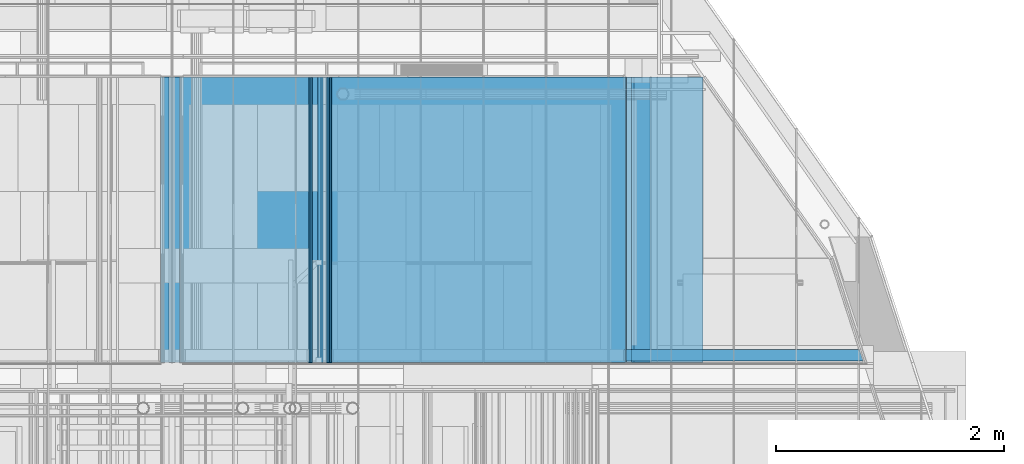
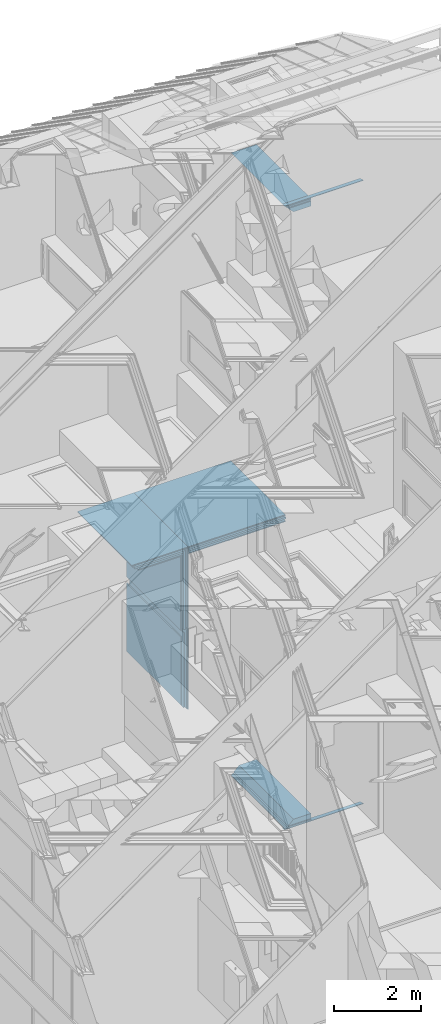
# One storey, part 167 of 583: 28 building element parts, 6 elements without a shape of their own.
"""IFC2X3 building model written with IfcOpenShell, lengths in metres."""

import ifcopenshell
import ifcopenshell.guid

model = None  # the IFC model being written
_history = None  # IfcOwnerHistory: only IFC2X3 demands one
_inside = {}  # id of a spatial element -> (the spatial element, [elements in it])
_under = {}  # id of a project, library or spatial element -> (it, [spatial elements below it])
_declared = {}  # id of a project -> (the project, [libraries it declares])
_typed = {}  # id of a type object -> (the type object, [elements of that type])
_made_of = {}  # id of a material, layer set ... -> (it, [elements and type objects made of it])


def new_model(schema):
    """Start an empty IFC model of exactly this schema.

    Asked for "IFC4X3", IfcOpenShell would pick the latest addendum, in which some entities
    have other attributes; the version numbers below select the first issue.
    IFC2X3 requires an IfcOwnerHistory on every rooted entity: one is made here for all.
    """
    global model, _history
    if schema == "IFC4X3":
        model = ifcopenshell.file(schema_version=(4, 3, 0, 0))
    else:
        model = ifcopenshell.file(schema=schema)
    _inside.clear()
    _under.clear()
    _declared.clear()
    _typed.clear()
    _made_of.clear()
    _history = None
    if model.schema == "IFC2X3":
        org = make("IfcOrganization", Name="unknown")
        user = make(
            "IfcPersonAndOrganization",
            ThePerson=make("IfcPerson", FamilyName="unknown"),
            TheOrganization=org,
        )
        app = make(
            "IfcApplication",
            ApplicationDeveloper=org,
            Version="unknown",
            ApplicationFullName="unknown",
            ApplicationIdentifier="unknown",
        )
        _history = make(
            "IfcOwnerHistory",
            OwningUser=user,
            OwningApplication=app,
            ChangeAction="ADDED",
            CreationDate=0,
        )
    return model


def make(cls, **values):
    """One entity of the class cls with the attributes given. An attribute that is None is left unset."""
    return model.create_entity(
        cls, **{name: value for name, value in values.items() if value is not None}
    )


def entity(cls, *values):
    """Any entity or typed value of the class cls, its attributes in the order of the schema. None: left unset."""
    e = model.create_entity(cls)
    for i, value in enumerate(values):
        if value is not None:
            e[i] = value
    return e


def rooted(cls, **values):
    """An entity with a GlobalId (a new one), such as an element, a storey or a relation."""
    return make(cls, GlobalId=ifcopenshell.guid.new(), OwnerHistory=_history, **values)


def si_unit(unit_type, name, prefix=None):
    """IfcSIUnit, for example si_unit("LENGTHUNIT", "METRE", prefix="MILLI")."""
    return make("IfcSIUnit", UnitType=unit_type, Prefix=prefix, Name=name)


def converted_unit(unit_type, name, factor, base, dimensions=None, offset=None):
    """IfcConversionBasedUnit, such as the inch: factor (a typed value) times the base unit."""
    return make(
        "IfcConversionBasedUnit"
        if offset is None
        else "IfcConversionBasedUnitWithOffset",
        ConversionOffset=offset,
        Dimensions=None
        if dimensions is None
        else entity("IfcDimensionalExponents", *dimensions),
        UnitType=unit_type,
        Name=name,
        ConversionFactor=make(
            "IfcMeasureWithUnit", ValueComponent=factor, UnitComponent=base
        ),
    )


def derived_unit(unit_type, elements):
    """IfcDerivedUnit: a product of units, each with its exponent."""
    return make(
        "IfcDerivedUnit",
        Elements=[
            make("IfcDerivedUnitElement", Unit=unit, Exponent=power)
            for unit, power in elements
        ],
        UnitType=unit_type,
    )


def money_unit(currency):
    """IfcMonetaryUnit."""
    return make("IfcMonetaryUnit", Currency=currency)


def assignment(units):
    """IfcUnitAssignment: the units of a project."""
    return None if units is None else make("IfcUnitAssignment", Units=units)


def point(xyz):
    """IfcCartesianPoint."""
    return None if xyz is None else make("IfcCartesianPoint", Coordinates=xyz)


def direction(xyz):
    """IfcDirection."""
    return None if xyz is None else make("IfcDirection", DirectionRatios=xyz)


def frame(location, z_axis=None, x_axis=None):
    """IfcAxis2Placement3D, a coordinate frame: its origin and axes. An axis left out is left unset."""
    return make(
        "IfcAxis2Placement3D",
        Location=point(location),
        Axis=direction(z_axis),
        RefDirection=direction(x_axis),
    )


def frame_2d(location, x_axis=None):
    """IfcAxis2Placement2D, a coordinate frame in the plane: its origin and x axis."""
    return make(
        "IfcAxis2Placement2D", Location=point(location), RefDirection=direction(x_axis)
    )


def origin_with_axes():
    """The frame at (0, 0, 0) with the z axis (0, 0, 1) and the x axis (1, 0, 0) written out."""
    return frame((0.0, 0.0, 0.0), z_axis=(0.0, 0.0, 1.0), x_axis=(1.0, 0.0, 0.0))


def place(relative_to, where):
    """IfcLocalPlacement: puts the frame where relative to a parent placement (None: the world)."""
    return make(
        "IfcLocalPlacement", PlacementRelTo=relative_to, RelativePlacement=where
    )


def context(
    kind, dimensions, precision=None, world=None, true_north=None, identifier=None
):
    """IfcGeometricRepresentationContext, for example the 3D "Model" context."""
    return make(
        "IfcGeometricRepresentationContext",
        ContextIdentifier=identifier,
        ContextType=kind,
        CoordinateSpaceDimension=dimensions,
        Precision=precision,
        WorldCoordinateSystem=world,
        TrueNorth=true_north,
    )


def subcontext(parent, identifier, kind, view, scale=None):
    """IfcGeometricRepresentationSubContext, for example "Body" below "Model"."""
    return make(
        "IfcGeometricRepresentationSubContext",
        ContextIdentifier=identifier,
        ContextType=kind,
        ParentContext=parent,
        TargetScale=scale,
        TargetView=view,
    )


def project(units=None, contexts=None):
    """IfcProject with its units and contexts."""
    return rooted(
        "IfcProject",
        Name="project",
        RepresentationContexts=contexts,
        UnitsInContext=assignment(units),
    )


def spatial(cls, under=None, at=None, **own):
    """A site, building, storey or space (cls), placed at a placement, below another one or the project."""
    s = rooted(cls, ObjectPlacement=at, **own)
    if under is not None:
        _under.setdefault(under.id(), (under, []))[1].append(s)
    return s


def polyline(points):
    """IfcPolyline through the points."""
    return make("IfcPolyline", Points=[point(p) for p in points])


def profile(cls, at=None, kind="AREA", **sizes):
    """A parametric profile (cls). Its sizes go by their IFC names, for example OverallWidth=200.0."""
    return make(cls, ProfileType=kind, Position=at, **sizes)


def rectangle(**sizes):
    """IfcRectangleProfileDef."""
    return profile("IfcRectangleProfileDef", **sizes)


def outline(outer, holes=None, kind="AREA"):
    """IfcArbitraryClosedProfileDef: a profile drawn as a closed curve; with holes, ...WithVoids."""
    if holes is None:
        return make("IfcArbitraryClosedProfileDef", ProfileType=kind, OuterCurve=outer)
    return make(
        "IfcArbitraryProfileDefWithVoids",
        ProfileType=kind,
        OuterCurve=outer,
        InnerCurves=holes,
    )


def extrude(swept, where, along, depth):
    """IfcExtrudedAreaSolid: the profile swept, set in the frame where, extruded along a direction by depth."""
    return make(
        "IfcExtrudedAreaSolid",
        SweptArea=swept,
        Position=where,
        ExtrudedDirection=direction(along),
        Depth=depth,
    )


def clip(a, b, op="DIFFERENCE"):
    """IfcBooleanClippingResult: the solid a cut by the half space b."""
    return make(
        "IfcBooleanClippingResult", Operator=op, FirstOperand=a, SecondOperand=b
    )


def halfspace(plane, agree):
    """IfcHalfSpaceSolid: all space on one side of the plane z = 0 of the frame plane."""
    return make(
        "IfcHalfSpaceSolid",
        BaseSurface=make("IfcPlane", Position=plane),
        AgreementFlag=agree,
    )


def shape(context_of_items, identifier, shape_type, items):
    """IfcShapeRepresentation: the items that make up one representation, for example the "Body"."""
    return make(
        "IfcShapeRepresentation",
        ContextOfItems=context_of_items,
        RepresentationIdentifier=identifier,
        RepresentationType=shape_type,
        Items=items,
    )


def material(Name=None, Category=None):
    """IfcMaterial."""
    return make("IfcMaterial", Name=Name, Category=Category)


def made_of(thing, what):
    """Note that an element or type object is made of a material, layer set ...; save() writes the relation."""
    if what is not None:
        _made_of.setdefault(what.id(), (what, []))[1].append(thing)
    return thing


def type_object(cls, material=None, **own):
    """A type object (cls), such as IfcWallType, which elements share."""
    return made_of(rooted(cls, **own), material)


def element(
    cls,
    number,
    at=None,
    inside=None,
    cuts=None,
    type_object=None,
    material=None,
    context=None,
    identifier="Body",
    shape_type=None,
    held_by="IfcProductDefinitionShape",
    body=None,
    shapes=None,
    **own,
):
    """One element of the class cls, such as IfcWall. Its Tag is "e" and its number.

    at: its placement. inside: the storey or other place that contains it. cuts: it is an
    opening in that element (IfcRelVoidsElement). A single representation is given by context,
    identifier, shape_type and body (its items); several are given by shapes. held_by: the class
    of the entity that holds the representations. save() writes the other relations.
    """
    e = rooted(cls, Tag="e%d" % number, ObjectPlacement=at, **own)
    if body is not None:
        shapes = [shape(context, identifier, shape_type, body)]
    if shapes is not None:
        e.Representation = make(held_by, Representations=shapes)
    if inside is not None:
        _inside.setdefault(inside.id(), (inside, []))[1].append(e)
    if cuts is not None:
        rooted(
            "IfcRelVoidsElement", RelatingBuildingElement=cuts, RelatedOpeningElement=e
        )
    if type_object is not None:
        _typed.setdefault(type_object.id(), (type_object, []))[1].append(e)
    return made_of(e, material)


def aggregate(whole, parts):
    """IfcRelAggregates: a whole, such as a stair, and the parts it consists of."""
    return rooted("IfcRelAggregates", RelatingObject=whole, RelatedObjects=parts)


def save(model, path):
    """Write the relations noted so far, then the file.

    IfcRelAggregates (storeys below a building ...), IfcRelContainedInSpatialStructure (elements
    in a storey), IfcRelDefinesByType, IfcRelAssociatesMaterial and IfcRelDeclares: one each for
    every whole, place, type object, material and project.
    """
    for whole, parts in _under.values():
        aggregate(whole, parts)
    for where, things in _inside.values():
        rooted(
            "IfcRelContainedInSpatialStructure",
            RelatedElements=things,
            RelatingStructure=where,
        )
    for kind, things in _typed.values():
        rooted("IfcRelDefinesByType", RelatedObjects=things, RelatingType=kind)
    for what, things in _made_of.values():
        rooted("IfcRelAssociatesMaterial", RelatedObjects=things, RelatingMaterial=what)
    for by, libraries in _declared.values():
        rooted("IfcRelDeclares", RelatingContext=by, RelatedDefinitions=libraries)
    model.write(path)


model = new_model("IFC2X3")

# Units and contexts
model_context = context("Model", 3, precision=1e-05, world=origin_with_axes(), true_north=direction((0.0, 1.0)))
body_context = subcontext(model_context, "Body", "Model", "MODEL_VIEW", scale=1.0)
ifc_project = project(units=[si_unit("LENGTHUNIT", "METRE"), si_unit("AREAUNIT", "SQUARE_METRE"), si_unit("VOLUMEUNIT", "CUBIC_METRE"), si_unit("ABSORBEDDOSEUNIT", "GRAY"), si_unit("AMOUNTOFSUBSTANCEUNIT", "MOLE"), si_unit("DOSEEQUIVALENTUNIT", "SIEVERT"), si_unit("ELECTRICCAPACITANCEUNIT", "FARAD"), si_unit("ELECTRICCHARGEUNIT", "COULOMB"), si_unit("ELECTRICCONDUCTANCEUNIT", "SIEMENS"), si_unit("ELECTRICCURRENTUNIT", "AMPERE"), si_unit("ELECTRICRESISTANCEUNIT", "OHM"), si_unit("ELECTRICVOLTAGEUNIT", "VOLT"), si_unit("ENERGYUNIT", "JOULE"), si_unit("FORCEUNIT", "NEWTON"), si_unit("FREQUENCYUNIT", "HERTZ"), si_unit("ILLUMINANCEUNIT", "LUX"), si_unit("INDUCTANCEUNIT", "HENRY"), si_unit("LUMINOUSFLUXUNIT", "LUMEN"), si_unit("LUMINOUSINTENSITYUNIT", "CANDELA"), si_unit("MAGNETICFLUXDENSITYUNIT", "TESLA"), si_unit("MAGNETICFLUXUNIT", "WEBER"), si_unit("MASSUNIT", "GRAM"), converted_unit("PLANEANGLEUNIT", "degree", entity("IfcReal", 0.0174532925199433), si_unit("PLANEANGLEUNIT", "RADIAN"), dimensions=[0, 0, 0, 0, 0, 0, 0]), si_unit("POWERUNIT", "WATT"), si_unit("PRESSUREUNIT", "PASCAL"), si_unit("RADIOACTIVITYUNIT", "BECQUEREL"), si_unit("SOLIDANGLEUNIT", "STERADIAN"), si_unit("THERMODYNAMICTEMPERATUREUNIT", "KELVIN"), si_unit("TIMEUNIT", "SECOND"), derived_unit("ACCELERATIONUNIT", [(si_unit("LENGTHUNIT", "METRE"), 1), (si_unit("TIMEUNIT", "SECOND"), -2)]), derived_unit("ANGULARVELOCITYUNIT", [(converted_unit("PLANEANGLEUNIT", "degree", entity("IfcReal", 0.0174532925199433), si_unit("PLANEANGLEUNIT", "RADIAN"), dimensions=[0, 0, 0, 0, 0, 0, 0]), 1), (si_unit("TIMEUNIT", "SECOND"), -1)]), derived_unit("CURVATUREUNIT", [(converted_unit("PLANEANGLEUNIT", "degree", entity("IfcReal", 0.0174532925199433), si_unit("PLANEANGLEUNIT", "RADIAN"), dimensions=[0, 0, 0, 0, 0, 0, 0]), 1), (si_unit("LENGTHUNIT", "METRE"), -1)]), derived_unit("DYNAMICVISCOSITYUNIT", [(si_unit("PRESSUREUNIT", "PASCAL"), 1), (si_unit("TIMEUNIT", "SECOND"), 1)]), derived_unit("HEATFLUXDENSITYUNIT", [(si_unit("POWERUNIT", "WATT"), 1), (si_unit("LENGTHUNIT", "METRE"), -2)]), derived_unit("HEATINGVALUEUNIT", [(si_unit("ENERGYUNIT", "JOULE"), 1), (si_unit("MASSUNIT", "GRAM"), -1)]), derived_unit("INTEGERCOUNTRATEUNIT", [(si_unit("TIMEUNIT", "SECOND"), -1)]), derived_unit("IONCONCENTRATIONUNIT", [(si_unit("MASSUNIT", "GRAM"), 1), (si_unit("VOLUMEUNIT", "CUBIC_METRE"), -1)]), derived_unit("ISOTHERMALMOISTURECAPACITYUNIT", [(si_unit("VOLUMEUNIT", "CUBIC_METRE"), 1), (si_unit("MASSUNIT", "GRAM"), -1)]), derived_unit("KINEMATICVISCOSITYUNIT", [(si_unit("AREAUNIT", "SQUARE_METRE"), 1), (si_unit("TIMEUNIT", "SECOND"), -1)]), derived_unit("LINEARFORCEUNIT", [(si_unit("FORCEUNIT", "NEWTON"), 1), (si_unit("LENGTHUNIT", "METRE"), -1)]), derived_unit("LINEARMOMENTUNIT", [(si_unit("FORCEUNIT", "NEWTON"), 1), (si_unit("LENGTHUNIT", "METRE"), -1)]), derived_unit("LINEARSTIFFNESSUNIT", [(si_unit("FORCEUNIT", "NEWTON"), 1), (si_unit("LENGTHUNIT", "METRE"), -1)]), derived_unit("LINEARVELOCITYUNIT", [(si_unit("LENGTHUNIT", "METRE"), 1), (si_unit("TIMEUNIT", "SECOND"), -1)]), derived_unit("LUMINOUSINTENSITYDISTRIBUTIONUNIT", [(si_unit("LUMINOUSINTENSITYUNIT", "CANDELA"), 1), (si_unit("LUMINOUSFLUXUNIT", "LUMEN"), -1)]), derived_unit("MASSDENSITYUNIT", [(si_unit("MASSUNIT", "GRAM"), 1), (si_unit("VOLUMEUNIT", "CUBIC_METRE"), -1)]), derived_unit("MASSFLOWRATEUNIT", [(si_unit("MASSUNIT", "GRAM"), 1), (si_unit("TIMEUNIT", "SECOND"), -1)]), derived_unit("MASSPERLENGTHUNIT", [(si_unit("MASSUNIT", "GRAM"), 1), (si_unit("LENGTHUNIT", "METRE"), -1)]), derived_unit("MODULUSOFELASTICITYUNIT", [(si_unit("FORCEUNIT", "NEWTON"), 1), (si_unit("AREAUNIT", "SQUARE_METRE"), -1)]), derived_unit("MODULUSOFLINEARSUBGRADEREACTIONUNIT", [(si_unit("FORCEUNIT", "NEWTON"), 1), (si_unit("LENGTHUNIT", "METRE"), -2)]), derived_unit("MODULUSOFROTATIONALSUBGRADEREACTIONUNIT", [(si_unit("FORCEUNIT", "NEWTON"), 1), (si_unit("LENGTHUNIT", "METRE"), 1)]), derived_unit("MODULUSOFSUBGRADEREACTIONUNIT", [(si_unit("FORCEUNIT", "NEWTON"), 1), (si_unit("VOLUMEUNIT", "CUBIC_METRE"), -1)]), derived_unit("MOISTUREDIFFUSIVITYUNIT", [(si_unit("VOLUMEUNIT", "CUBIC_METRE"), 1), (si_unit("TIMEUNIT", "SECOND"), -1)]), derived_unit("MOLECULARWEIGHTUNIT", [(si_unit("MASSUNIT", "GRAM"), 1), (si_unit("AMOUNTOFSUBSTANCEUNIT", "MOLE"), -1)]), derived_unit("PLANARFORCEUNIT", [(si_unit("FORCEUNIT", "NEWTON"), 1), (si_unit("LENGTHUNIT", "METRE"), -2)]), derived_unit("ROTATIONALFREQUENCYUNIT", [(si_unit("TIMEUNIT", "SECOND"), -1)]), derived_unit("ROTATIONALMASSUNIT", [(si_unit("MASSUNIT", "GRAM"), 1), (si_unit("LENGTHUNIT", "METRE"), 2)]), derived_unit("ROTATIONALSTIFFNESSUNIT", [(si_unit("FORCEUNIT", "NEWTON"), 1), (si_unit("LENGTHUNIT", "METRE"), 1), (converted_unit("PLANEANGLEUNIT", "degree", entity("IfcReal", 0.0174532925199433), si_unit("PLANEANGLEUNIT", "RADIAN"), dimensions=[0, 0, 0, 0, 0, 0, 0]), -1)]), derived_unit("SECTIONAREAINTEGRALUNIT", [(si_unit("LENGTHUNIT", "METRE"), 5)]), derived_unit("SECTIONMODULUSUNIT", [(si_unit("LENGTHUNIT", "METRE"), 3)]), derived_unit("SHEARMODULUSUNIT", [(si_unit("FORCEUNIT", "NEWTON"), 1), (si_unit("AREAUNIT", "SQUARE_METRE"), -1)]), derived_unit("SOUNDPOWERUNIT", [(si_unit("ENERGYUNIT", "JOULE"), 1), (si_unit("TIMEUNIT", "SECOND"), -1)]), derived_unit("SPECIFICHEATCAPACITYUNIT", [(si_unit("FORCEUNIT", "NEWTON"), 1), (si_unit("MASSUNIT", "GRAM"), -1), (si_unit("THERMODYNAMICTEMPERATUREUNIT", "KELVIN"), -1)]), derived_unit("TEMPERATUREGRADIENTUNIT", [(si_unit("THERMODYNAMICTEMPERATUREUNIT", "KELVIN"), 1), (si_unit("LENGTHUNIT", "METRE"), -1)]), derived_unit("THERMALADMITTANCEUNIT", [(si_unit("POWERUNIT", "WATT"), 1), (si_unit("AREAUNIT", "SQUARE_METRE"), -1), (si_unit("THERMODYNAMICTEMPERATUREUNIT", "KELVIN"), -1)]), derived_unit("THERMALCONDUCTANCEUNIT", [(si_unit("POWERUNIT", "WATT"), 1), (si_unit("LENGTHUNIT", "METRE"), -1), (si_unit("THERMODYNAMICTEMPERATUREUNIT", "KELVIN"), -1)]), derived_unit("THERMALEXPANSIONCOEFFICIENTUNIT", [(si_unit("THERMODYNAMICTEMPERATUREUNIT", "KELVIN"), -1)]), derived_unit("THERMALRESISTANCEUNIT", [(si_unit("AREAUNIT", "SQUARE_METRE"), 1), (si_unit("POWERUNIT", "WATT"), -1)]), derived_unit("THERMALTRANSMITTANCEUNIT", [(si_unit("POWERUNIT", "WATT"), 1), (si_unit("AREAUNIT", "SQUARE_METRE"), -1), (si_unit("THERMODYNAMICTEMPERATUREUNIT", "KELVIN"), -1)]), derived_unit("TORQUEUNIT", [(si_unit("FORCEUNIT", "NEWTON"), 1), (si_unit("LENGTHUNIT", "METRE"), 1)]), derived_unit("VAPORPERMEABILITYUNIT", [(si_unit("MASSUNIT", "GRAM"), 1), (si_unit("TIMEUNIT", "SECOND"), -1)]), derived_unit("VOLUMETRICFLOWRATEUNIT", [(si_unit("VOLUMEUNIT", "CUBIC_METRE"), 1), (si_unit("TIMEUNIT", "SECOND"), -1)]), derived_unit("WARPINGCONSTANTUNIT", [(si_unit("LENGTHUNIT", "METRE"), 6)]), derived_unit("WARPINGMOMENTUNIT", [(si_unit("FORCEUNIT", "NEWTON"), 1), (si_unit("LENGTHUNIT", "METRE"), 2)]), money_unit("GBP")], contexts=[model_context])

# Site, building, storey
site_placement = place(None, origin_with_axes())
site = spatial("IfcSite", under=ifc_project, at=site_placement, Name="Site", CompositionType="ELEMENT")
building_placement = place(site_placement, origin_with_axes())
building = spatial("IfcBuilding", under=site, at=building_placement, Name="Building01", CompositionType="ELEMENT")
storey_placement = place(building_placement, frame((0.0, 0.0, 20.78), z_axis=(0.0, 0.0, 1.0), x_axis=(1.0, 0.0, 0.0)))
storey = spatial("IfcBuildingStorey", under=building, at=storey_placement, Name="RL", CompositionType="ELEMENT", Elevation=20.78)

# Wall, building element parts
wall_type_1 = type_object("IfcWallType", Name="SHE_A-Walls_Type06e_ExternalWallPenthouse_280mm", PredefinedType="NOTDEFINED")
wall_1_placement = place(storey_placement, frame((12.097195, 17.68, 1.224976), z_axis=(0.0, 1.0, 0.0), x_axis=(-1.0, 0.0, 0.0)))
wall_1 = element("IfcWall", 1, at=wall_1_placement, inside=storey, type_object=wall_type_1, Name="6E", ObjectType="SHE_A-Walls_Type06e_ExternalWallPenthouse_280mm")
ifc_material_1 = material(Name="A_BSUK_Insulation")
placement_1 = place(wall_1_placement, origin_with_axes())
building_element_part_1 = element("IfcBuildingElementPart", 2, at=placement_1, material=ifc_material_1, Name="1", context=body_context, shape_type="SweptSolid", body=[
    extrude(outline(polyline([(0.602256, 0.14), (0.0, 0.14), (0.0, 0.0), (0.462256, 0.0), (0.602256, 0.14)])), origin_with_axes(), (0.0, 0.0, 1.0), 2.5),
])
building_element_part_2 = element("IfcBuildingElementPart", 3, at=placement_1, material=ifc_material_1, Name="2", context=body_context, shape_type="SweptSolid", body=[
    extrude(outline(polyline([(0.667256, 0.205), (0.0, 0.205), (0.0, 0.165), (0.627256, 0.165), (0.667256, 0.205)])), origin_with_axes(), (0.0, 0.0, 1.0), 2.5),
])
ifc_material_2 = material(Name="A_BSUK_Walls_Timber")
building_element_part_3 = element("IfcBuildingElementPart", 4, at=placement_1, material=ifc_material_2, Name="3", context=body_context, shape_type="Clipping", body=[
    clip(extrude(outline(polyline([(0.692256, 0.23), (-1.404691, 0.23), (-1.404691, 0.215), (0.677256, 0.215), (0.692256, 0.23)])), frame((0.0, 0.0, 0.015), z_axis=(0.0, 0.0, 1.0), x_axis=(1.0, 0.0, 0.0)), (0.0, 0.0, 1.0), 0.1), halfspace(frame((-1.274964, 0.0, 0.41426), z_axis=(0.95105669, 0.0, -0.30901647), x_axis=(0.0, 1.0, 0.0)), True)),
])
ifc_material_3 = material(Name="A_BSUK_WallInternal_Finishes_Plasterboard")
building_element_part_4 = element("IfcBuildingElementPart", 5, at=placement_1, material=ifc_material_3, Name="4", context=body_context, shape_type="SweptSolid", body=[
    extrude(outline(polyline([(0.677256, 0.215), (0.0, 0.215), (0.0, 0.205), (0.667256, 0.205), (0.677256, 0.215)])), origin_with_axes(), (0.0, 0.0, 1.0), 2.5),
])
aggregate(wall_1, [building_element_part_1, building_element_part_2, building_element_part_3, building_element_part_4])

wall_2_placement = place(storey_placement, frame((11.634939, 17.68, -15.784976), z_axis=(0.0, 1.0, 0.0), x_axis=(1.0, 0.0, 0.0)))
wall_2 = element("IfcWall", 6, at=wall_2_placement, inside=storey, type_object=wall_type_1, Name="6E", ObjectType="SHE_A-Walls_Type06e_ExternalWallPenthouse_280mm")
placement_2 = place(wall_2_placement, origin_with_axes())
building_element_part_5 = element("IfcBuildingElementPart", 7, at=placement_2, material=ifc_material_1, Name="1", context=body_context, shape_type="SweptSolid", body=[
    extrude(outline(polyline([(-0.14, 0.14), (0.0, 0.0), (0.462256, 0.0), (0.462256, 0.14), (-0.14, 0.14)])), origin_with_axes(), (0.0, 0.0, 1.0), 2.5),
])
building_element_part_6 = element("IfcBuildingElementPart", 8, at=placement_2, material=ifc_material_1, Name="2", context=body_context, shape_type="SweptSolid", body=[
    extrude(outline(polyline([(-0.205, 0.205), (-0.165, 0.165), (0.462256, 0.165), (0.462256, 0.205), (-0.205, 0.205)])), origin_with_axes(), (0.0, 0.0, 1.0), 2.5),
])
building_element_part_7 = element("IfcBuildingElementPart", 9, at=placement_2, material=ifc_material_2, Name="3", context=body_context, shape_type="Clipping", body=[
    clip(extrude(outline(polyline([(1.866947, 0.23), (-0.23, 0.23), (-0.215, 0.215), (1.866947, 0.215), (1.866947, 0.23)])), frame((0.0, 0.0, 0.015), z_axis=(0.0, 0.0, 1.0), x_axis=(1.0, 0.0, 0.0)), (0.0, 0.0, 1.0), 0.1), halfspace(frame((1.693079, 0.0, 0.550114), z_axis=(-0.95105669, 0.0, -0.30901647), x_axis=(0.0, -1.0, 0.0)), True)),
])
building_element_part_8 = element("IfcBuildingElementPart", 10, at=placement_2, material=ifc_material_3, Name="4", context=body_context, shape_type="SweptSolid", body=[
    extrude(outline(polyline([(-0.215, 0.215), (-0.205, 0.205), (0.462256, 0.205), (0.462256, 0.215), (-0.215, 0.215)])), origin_with_axes(), (0.0, 0.0, 1.0), 2.5),
])
aggregate(wall_2, [building_element_part_5, building_element_part_6, building_element_part_7, building_element_part_8])

wall_type_2 = type_object("IfcWallType", Name="SHE_A-Walls_Type01d_Partywall_200mm_twin", PredefinedType="NOTDEFINED")
wall_3_placement = place(storey_placement, frame((11.429939, 17.68, -7.305), z_axis=(0.0, 1.0, 0.0), x_axis=(-1.0, 0.0, 0.0)))
wall_3 = element("IfcWall", 11, at=wall_3_placement, inside=storey, type_object=wall_type_2, Name="1D", ObjectType="SHE_A-Walls_Type01d_Partywall_200mm_twin")
placement_3 = place(wall_3_placement, origin_with_axes())
building_element_part_9 = element("IfcBuildingElementPart", 12, at=placement_3, material=ifc_material_1, Name="1", context=body_context, shape_type="SweptSolid", body=[
    extrude(rectangle(XDim=2.582587, YDim=0.05, at=frame_2d((1.291293, 0.025), x_axis=(-1.0, 0.0))), origin_with_axes(), (0.0, 0.0, 1.0), 2.5),
])
building_element_part_10 = element("IfcBuildingElementPart", 13, at=placement_3, material=ifc_material_3, Name="3", context=body_context, shape_type="SweptSolid", body=[
    extrude(rectangle(XDim=2.572587, YDim=0.015, at=frame_2d((1.296293, 0.1175), x_axis=(-1.0, 0.0))), origin_with_axes(), (0.0, 0.0, 1.0), 2.5),
])
building_element_part_11 = element("IfcBuildingElementPart", 14, at=placement_3, material=ifc_material_3, Name="4", context=body_context, shape_type="SweptSolid", body=[
    extrude(rectangle(XDim=2.572587, YDim=0.015, at=frame_2d((1.296293, 0.1025), x_axis=(-1.0, 0.0))), origin_with_axes(), (0.0, 0.0, 1.0), 2.5),
])
building_element_part_12 = element("IfcBuildingElementPart", 15, at=placement_3, material=ifc_material_3, Name="5", context=body_context, shape_type="SweptSolid", body=[
    extrude(rectangle(XDim=2.572587, YDim=0.015, at=frame_2d((1.296293, -0.0525), x_axis=(-1.0, 0.0))), origin_with_axes(), (0.0, 0.0, 1.0), 2.5),
])
building_element_part_13 = element("IfcBuildingElementPart", 16, at=placement_3, material=ifc_material_3, Name="6", context=body_context, shape_type="SweptSolid", body=[
    extrude(rectangle(XDim=2.572587, YDim=0.015, at=frame_2d((1.296293, -0.0675), x_axis=(-1.0, 0.0))), origin_with_axes(), (0.0, 0.0, 1.0), 2.5),
])
aggregate(wall_3, [building_element_part_9, building_element_part_10, building_element_part_11, building_element_part_12, building_element_part_13])

wall_type_3 = type_object("IfcWallType", Name="SHE_A-Walls_Type03b_Firewall_200mm_twin", PredefinedType="NOTDEFINED")
wall_4_placement = place(storey_placement, frame((8.722353, 17.68, -9.457), z_axis=(0.0, 1.0, 0.0), x_axis=(0.0, 0.0, 1.0)))
wall_4 = element("IfcWall", 17, at=wall_4_placement, inside=storey, type_object=wall_type_3, Name="3B", ObjectType="SHE_A-Walls_Type03b_Firewall_200mm_twin")
placement_4 = place(wall_4_placement, origin_with_axes())
building_element_part_14 = element("IfcBuildingElementPart", 18, at=placement_4, material=ifc_material_1, Name="1", context=body_context, shape_type="SweptSolid", body=[
    extrude(rectangle(XDim=2.202, YDim=0.05, at=frame_2d((1.101, 0.025), x_axis=(-1.0, 0.0))), origin_with_axes(), (0.0, 0.0, 1.0), 2.5),
])
building_element_part_15 = element("IfcBuildingElementPart", 19, at=placement_4, material=ifc_material_3, Name="3", context=body_context, shape_type="SweptSolid", body=[
    extrude(outline(polyline([(2.277, 0.125), (0.0, 0.125), (0.0, 0.11), (2.262, 0.11), (2.277, 0.125)])), origin_with_axes(), (0.0, 0.0, 1.0), 2.5),
])
building_element_part_16 = element("IfcBuildingElementPart", 20, at=placement_4, material=ifc_material_3, Name="4", context=body_context, shape_type="SweptSolid", body=[
    extrude(outline(polyline([(2.262, 0.11), (0.0, 0.11), (0.0, 0.095), (2.247, 0.095), (2.262, 0.11)])), origin_with_axes(), (0.0, 0.0, 1.0), 2.5),
])
building_element_part_17 = element("IfcBuildingElementPart", 21, at=placement_4, material=ifc_material_3, Name="5", context=body_context, shape_type="SweptSolid", body=[
    extrude(outline(polyline([(2.107, -0.045), (0.0, -0.045), (0.0, -0.06), (2.092, -0.06), (2.107, -0.045)])), origin_with_axes(), (0.0, 0.0, 1.0), 2.5),
])
building_element_part_18 = element("IfcBuildingElementPart", 22, at=placement_4, material=ifc_material_3, Name="6", context=body_context, shape_type="SweptSolid", body=[
    extrude(outline(polyline([(2.092, -0.06), (0.0, -0.06), (0.0, -0.075), (2.077, -0.075), (2.092, -0.06)])), origin_with_axes(), (0.0, 0.0, 1.0), 2.5),
])
aggregate(wall_4, [building_element_part_14, building_element_part_15, building_element_part_16, building_element_part_17, building_element_part_18])

wall_5_placement = place(storey_placement, frame((8.722353, 17.68, -7.305), z_axis=(0.0, 1.0, 0.0), x_axis=(-1.0, 0.0, 0.0)))
wall_5 = element("IfcWall", 23, at=wall_5_placement, inside=storey, type_object=wall_type_3, Name="3B", ObjectType="SHE_A-Walls_Type03b_Firewall_200mm_twin")
placement_5 = place(wall_5_placement, origin_with_axes())
building_element_part_19 = element("IfcBuildingElementPart", 24, at=placement_5, material=ifc_material_1, Name="1", context=body_context, shape_type="SweptSolid", body=[
    extrude(rectangle(XDim=1.297413, YDim=0.05, at=frame_2d((0.648707, 0.025), x_axis=(-1.0, 0.0))), origin_with_axes(), (0.0, 0.0, 1.0), 2.5),
])
building_element_part_20 = element("IfcBuildingElementPart", 25, at=placement_5, material=ifc_material_3, Name="3", context=body_context, shape_type="SweptSolid", body=[
    extrude(outline(polyline([(1.372413, 0.125), (-0.125, 0.125), (-0.11, 0.11), (1.372413, 0.11), (1.372413, 0.125)])), origin_with_axes(), (0.0, 0.0, 1.0), 2.5),
])
building_element_part_21 = element("IfcBuildingElementPart", 26, at=placement_5, material=ifc_material_3, Name="4", context=body_context, shape_type="SweptSolid", body=[
    extrude(outline(polyline([(1.357413, 0.11), (-0.11, 0.11), (-0.095, 0.095), (1.357413, 0.095), (1.357413, 0.11)])), origin_with_axes(), (0.0, 0.0, 1.0), 2.5),
])
building_element_part_22 = element("IfcBuildingElementPart", 27, at=placement_5, material=ifc_material_3, Name="5", context=body_context, shape_type="SweptSolid", body=[
    extrude(outline(polyline([(1.202413, -0.045), (0.045, -0.045), (0.06, -0.06), (1.202413, -0.06), (1.202413, -0.045)])), origin_with_axes(), (0.0, 0.0, 1.0), 2.5),
])
building_element_part_23 = element("IfcBuildingElementPart", 28, at=placement_5, material=ifc_material_3, Name="6", context=body_context, shape_type="SweptSolid", body=[
    extrude(outline(polyline([(1.187413, -0.06), (0.06, -0.06), (0.075, -0.075), (1.187413, -0.075), (1.187413, -0.06)])), origin_with_axes(), (0.0, 0.0, 1.0), 2.5),
])
aggregate(wall_5, [building_element_part_19, building_element_part_20, building_element_part_21, building_element_part_22, building_element_part_23])

wall_type_4 = type_object("IfcWallType", Name="SHE_A-Walls_Type02c_LiftShaftWall_193mm", PredefinedType="NOTDEFINED")
wall_6_placement = place(storey_placement, frame((8.727353, 17.68, -11.648), z_axis=(0.0, 1.0, 0.0), x_axis=(0.0, 0.0, 1.0)))
wall_6 = element("IfcWall", 29, at=wall_6_placement, inside=storey, type_object=wall_type_4, Name="2C", ObjectType="SHE_A-Walls_Type02c_LiftShaftWall_193mm")
placement_6 = place(wall_6_placement, origin_with_axes())
building_element_part_24 = element("IfcBuildingElementPart", 30, at=placement_6, material=ifc_material_1, Name="1", context=body_context, shape_type="SweptSolid", body=[
    extrude(rectangle(XDim=2.096, YDim=0.025, at=frame_2d((1.048, 0.0125), x_axis=(-1.0, 0.0))), origin_with_axes(), (0.0, 0.0, 1.0), 2.5),
])
building_element_part_25 = element("IfcBuildingElementPart", 31, at=placement_6, material=ifc_material_3, Name="2", context=body_context, shape_type="SweptSolid", body=[
    extrude(outline(polyline([(2.017, -0.054), (0.079, -0.054), (0.098, -0.073), (1.998, -0.073), (2.017, -0.054)])), origin_with_axes(), (0.0, 0.0, 1.0), 2.5),
])
building_element_part_26 = element("IfcBuildingElementPart", 32, at=placement_6, material=ifc_material_3, Name="4", context=body_context, shape_type="SweptSolid", body=[
    extrude(outline(polyline([(2.191, 0.12), (-0.095, 0.12), (-0.08, 0.105), (2.176, 0.105), (2.191, 0.12)])), origin_with_axes(), (0.0, 0.0, 1.0), 2.5),
])
building_element_part_27 = element("IfcBuildingElementPart", 33, at=placement_6, material=ifc_material_3, Name="5", context=body_context, shape_type="SweptSolid", body=[
    extrude(outline(polyline([(2.176, 0.105), (-0.08, 0.105), (-0.065, 0.09), (2.161, 0.09), (2.176, 0.105)])), origin_with_axes(), (0.0, 0.0, 1.0), 2.5),
])
building_element_part_28 = element("IfcBuildingElementPart", 34, at=placement_6, material=ifc_material_3, Name="6", context=body_context, shape_type="SweptSolid", body=[
    extrude(outline(polyline([(2.161, 0.09), (-0.065, 0.09), (-0.05, 0.075), (2.146, 0.075), (2.161, 0.09)])), origin_with_axes(), (0.0, 0.0, 1.0), 2.5),
])
aggregate(wall_6, [building_element_part_24, building_element_part_25, building_element_part_26, building_element_part_27, building_element_part_28])

save(model, "model.ifc")
